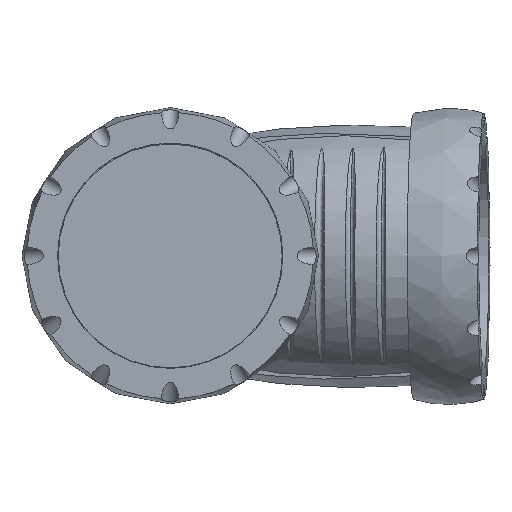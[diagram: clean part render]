
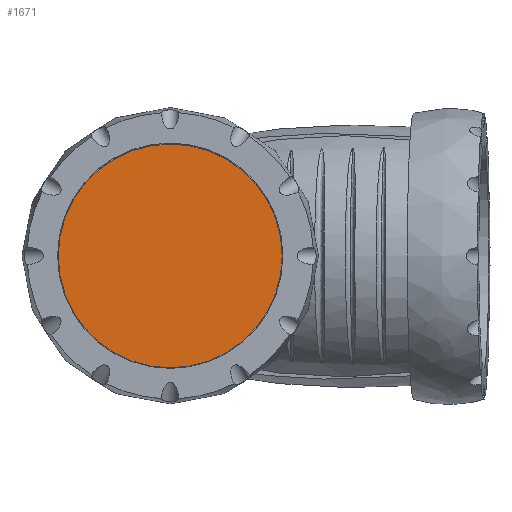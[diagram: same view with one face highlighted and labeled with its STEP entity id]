
A CAD part, top view. The second image highlights one B-rep face of the part: STEP entity #1671.
In plain terms, the highlighted planar face has unit normal (0, 0, 1).
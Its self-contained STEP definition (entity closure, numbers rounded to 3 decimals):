
#227=PLANE('',#1812);
#306=FACE_OUTER_BOUND('',#415,.T.);
#415=EDGE_LOOP('',(#1079));
#553=CIRCLE('',#1813,25.35);
#634=VERTEX_POINT('',#2398);
#816=EDGE_CURVE('',#634,#634,#553,.T.);
#1079=ORIENTED_EDGE('',*,*,#816,.T.);
#1671=ADVANCED_FACE('',(#306),#227,.T.);
#1812=AXIS2_PLACEMENT_3D('',#2397,#2029,#2030);
#1813=AXIS2_PLACEMENT_3D('',#2399,#2031,#2032);
#2029=DIRECTION('center_axis',(0.,0.,
1.));
#2030=DIRECTION('ref_axis',(0.,1.,0.));
#2031=DIRECTION('center_axis',(0.,0.,
1.));
#2032=DIRECTION('ref_axis',(0.,1.,0.));
#2397=CARTESIAN_POINT('Origin',(0.,0.,
111.6));
#2398=CARTESIAN_POINT('',(-25.35,0.,111.6));
#2399=CARTESIAN_POINT('Origin',(0.,0.,
111.6));
